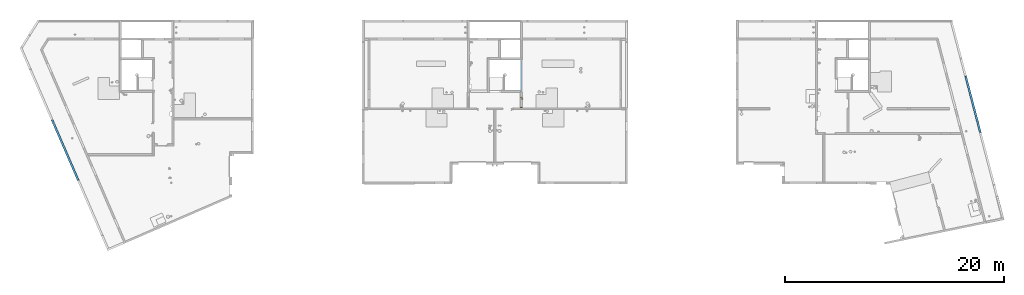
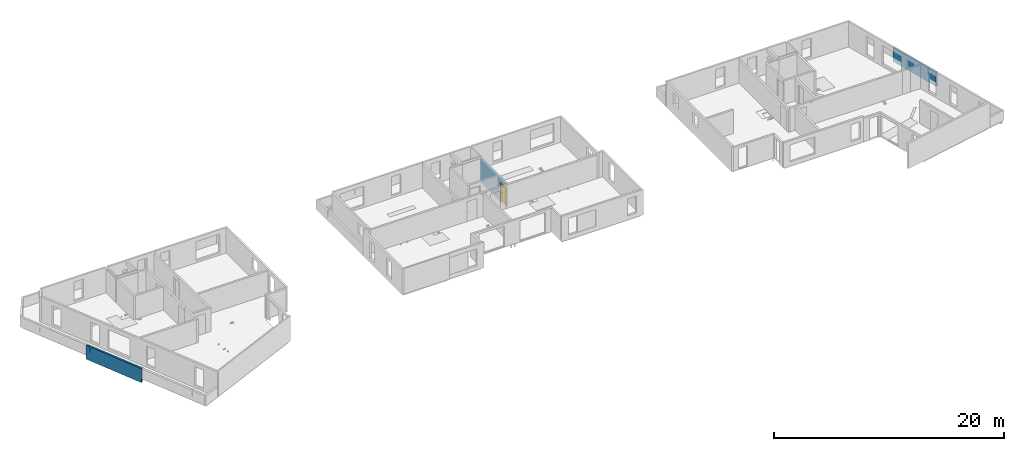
# One storey, part 18 of 28: 2 beams, 1 door, 2 openings, plus 1 element that does not belong to this part.
"""IFC2X3 building model written with IfcOpenShell, lengths in centimetres."""

from ifc_helpers import new_model, entity, si_unit, converted_unit, derived_unit, direction, frame, frame_2d, origin, place, context, subcontext, project, spatial, rectangle, extrude, faceted_brep, source, transform, mapped, material, material_list, layer, layer_set, layer_usage, type_object, type_shapes, element, fill, save


model = new_model("IFC2X3")

# Units and contexts
model_context = context("Model", 3, precision=0.001, world=origin(), true_north=direction((6.12303176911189e-17, 1.0)))
body_context = subcontext(model_context, "Body", "Model", "MODEL_VIEW")
ifc_project = project(units=[si_unit("LENGTHUNIT", "METRE", prefix="CENTI"), si_unit("AREAUNIT", "SQUARE_METRE"), si_unit("VOLUMEUNIT", "CUBIC_METRE"), converted_unit("PLANEANGLEUNIT", "DEGREE", entity("IfcRatioMeasure", 0.0174532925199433), si_unit("PLANEANGLEUNIT", "RADIAN"), dimensions=[0, 0, 0, 0, 0, 0, 0]), si_unit("MASSUNIT", "GRAM", prefix="KILO"), derived_unit("MASSDENSITYUNIT", [(si_unit("MASSUNIT", "GRAM", prefix="KILO"), 1), (si_unit("LENGTHUNIT", "METRE"), -3)]), si_unit("TIMEUNIT", "SECOND"), si_unit("FREQUENCYUNIT", "HERTZ"), si_unit("THERMODYNAMICTEMPERATUREUNIT", "DEGREE_CELSIUS"), derived_unit("THERMALTRANSMITTANCEUNIT", [(si_unit("MASSUNIT", "GRAM", prefix="KILO"), 1), (si_unit("THERMODYNAMICTEMPERATUREUNIT", "KELVIN"), -1), (si_unit("TIMEUNIT", "SECOND"), -3)]), derived_unit("VOLUMETRICFLOWRATEUNIT", [(si_unit("LENGTHUNIT", "METRE"), 3), (si_unit("TIMEUNIT", "SECOND"), -1)]), si_unit("ELECTRICCURRENTUNIT", "AMPERE"), si_unit("ELECTRICVOLTAGEUNIT", "VOLT"), si_unit("POWERUNIT", "WATT"), si_unit("FORCEUNIT", "NEWTON"), si_unit("ILLUMINANCEUNIT", "LUX"), si_unit("LUMINOUSFLUXUNIT", "LUMEN"), si_unit("LUMINOUSINTENSITYUNIT", "CANDELA"), derived_unit("USERDEFINED", [(si_unit("MASSUNIT", "GRAM", prefix="KILO"), -1), (si_unit("LENGTHUNIT", "METRE"), -2), (si_unit("TIMEUNIT", "SECOND"), 3), (si_unit("LUMINOUSFLUXUNIT", "LUMEN"), 1)]), derived_unit("LINEARVELOCITYUNIT", [(si_unit("LENGTHUNIT", "METRE"), 1), (si_unit("TIMEUNIT", "SECOND"), -1)]), si_unit("PRESSUREUNIT", "PASCAL"), derived_unit("USERDEFINED", [(si_unit("LENGTHUNIT", "METRE"), -2), (si_unit("MASSUNIT", "GRAM", prefix="KILO"), 1), (si_unit("TIMEUNIT", "SECOND"), -2)])], contexts=[model_context])

# Site, building, storey
site_placement = place(None, origin())
site = spatial("IfcSite", under=ifc_project, at=site_placement, Name="Default", CompositionType="ELEMENT")
building_placement = place(site_placement, origin())
building = spatial("IfcBuilding", under=site, at=building_placement, Name="CAGE 03", CompositionType="ELEMENT")
storey_placement = place(building_placement, frame((0.0, 0.0, 1420.0)))
storey = spatial("IfcBuildingStorey", under=building, at=storey_placement, Name="R+5", CompositionType="ELEMENT", Elevation=1420.0)

# Beams
ifc_material_1 = material(Name="Béton, C25/30")
beam_type = type_object("IfcBeamType", Name="BBGO-Poutre rect:18x149ht", PredefinedType="BEAM")
beam_1_placement = place(storey_placement, frame((3030.53791418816, 3828.7019610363, -44.0), z_axis=(0.0, 0.0, 1.0), x_axis=(0.397106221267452, -0.91777265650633, 0.0)))
element("IfcBeam", 1, at=beam_1_placement, inside=storey, type_object=beam_type, material=ifc_material_1, Name="BBGO-Poutre rect:18x149ht", ObjectType="BBGO-Poutre rect:18x149ht", context=body_context, shape_type="Brep", body=[
    faceted_brep([(-507.490379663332, 219.583341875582, 0.0), (95.0103607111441, 219.583341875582, 0.0), (95.0103607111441, 219.583341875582, 44.0), (95.0103607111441, 219.583341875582, 149.0), (-459.989639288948, 219.583341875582, 149.0), (-459.989639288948, 219.583341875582, 84.0), (-461.989639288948, 219.583341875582, 84.0), (-461.989639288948, 219.583341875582, 149.0), (-503.596217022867, 219.583341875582, 149.0), (-503.596217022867, 219.583341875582, 44.0), (-507.490379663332, 219.583341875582, 44.0), (95.0103607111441, 237.583341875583, 0.0), (-499.702054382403, 237.583341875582, 0.0), (-499.702054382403, 237.583341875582, 44.0), (-503.596217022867, 237.583341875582, 44.0), (-503.596217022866, 237.583341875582, 149.0), (-461.989639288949, 237.583341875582, 149.0), (-461.989639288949, 237.583341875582, 84.0), (-459.98963928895, 237.583341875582, 84.0), (-459.989639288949, 237.583341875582, 149.0), (95.0103607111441, 237.583341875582, 149.0), (95.0103607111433, 237.583341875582, 44.0), (-503.596217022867, 228.583341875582, 44.0)], [[[0, 1, 2, 3, 4, 5, 6, 7, 8, 9, 10]], [[11, 1, 0, 12]], [[12, 13, 14, 15, 16, 17, 18, 19, 20, 21, 11]], [[3, 20, 19, 4]], [[1, 11, 21, 20, 3, 2]], [[14, 13, 22]], [[0, 10, 22, 13, 12]], [[9, 22, 10]], [[22, 9, 8, 15, 14]], [[18, 5, 4, 19]], [[5, 18, 17, 6]], [[6, 17, 16, 7]], [[15, 8, 7, 16]]]),
])
beam_2_placement = place(storey_placement, frame((11368.8973038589, 4264.38654886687, -44.0), z_axis=(0.0, 0.0, 1.0), x_axis=(0.252679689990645, -0.967549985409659, 0.0)))
element("IfcBeam", 2, at=beam_2_placement, inside=storey, type_object=beam_type, material=ifc_material_1, Name="BBGO-Poutre rect:18x149ht", ObjectType="BBGO-Poutre rect:18x149ht", context=body_context, shape_type="Brep", body=[
    faceted_brep([(31.7914663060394, 130.734488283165, 0.0), (31.7914663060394, 130.734488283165, 44.0), (34.1418536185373, 130.734488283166, 44.0), (34.1418536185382, 130.734488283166, 149.0), (-61.1027680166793, 130.734488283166, 149.0), (-61.1027680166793, 130.734488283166, 84.0), (-63.1027680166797, 130.734488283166, 84.0), (-63.1027680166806, 130.734488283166, 149.0), (-500.602768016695, 130.734488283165, 149.0), (-500.602768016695, 130.734488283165, 44.0), (-500.602768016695, 130.734488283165, 0.0), (36.492240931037, 148.734488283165, 0.0), (-500.602768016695, 148.734488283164, 0.0), (36.4922409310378, 148.734488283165, 44.0), (-500.602768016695, 148.734488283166, 44.0), (-500.602768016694, 148.734488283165, 149.0), (-63.1027680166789, 148.734488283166, 149.0), (-63.1027680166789, 148.734488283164, 84.0), (-61.1027680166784, 148.734488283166, 84.0), (-61.1027680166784, 148.734488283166, 149.0), (34.1418536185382, 148.734488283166, 149.0), (34.1418536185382, 148.734488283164, 44.0), (34.1418536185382, 139.734488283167, 44.0)], [[[0, 1, 2, 3, 4, 5, 6, 7, 8, 9, 10]], [[11, 0, 10, 12]], [[13, 11, 12, 14, 15, 16, 17, 18, 19, 20, 21]], [[3, 20, 19, 4]], [[2, 1, 22]], [[1, 0, 11, 13, 22]], [[12, 10, 9, 8, 15, 14]], [[21, 22, 13]], [[22, 21, 20, 3, 2]], [[18, 5, 4, 19]], [[5, 18, 17, 6]], [[6, 17, 16, 7]], [[15, 8, 7, 16]]]),
])

# Wall, openings, door
ifc_material_2 = material(Name="Béton, panneaux préfa 30/37")
ifc_layer_1 = layer(ifc_material_2, 5.5)
ifc_layer_2 = layer(ifc_material_1, 7.0)
ifc_layer_3 = layer(ifc_material_2, 5.5)
ifc_layer_set = layer_set([ifc_layer_1, ifc_layer_2, ifc_layer_3], Name="Mur de base:premur 18")
ifc_layer_usage = layer_usage(ifc_layer_set, "AXIS2", "NEGATIVE", 9.0)
wall_type = type_object("IfcWallType", Name="Mur de base:premur 18", PredefinedType="NOTDEFINED")
wall_placement = place(storey_placement, frame((7322.36582014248, 4932.6606660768, 0.0), z_axis=(0.0, 0.0, 1.0), x_axis=(0.0, -1.0, 0.0)))
wall = element("IfcWallStandardCase", 3, at=wall_placement, inside=storey, type_object=wall_type, material=ifc_layer_usage, Name="Mur de base:premur 18", ObjectType="Mur de base:premur 18", context=body_context, shape_type="SweptSolid", body=[
    extrude(rectangle(XDim=440.0, YDim=17.9999999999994, at=frame_2d((220.0, 0.0), x_axis=(-1.0, 0.0))), origin(), (0.0, 0.0, 1.0), 250.0),
])
opening_1_placement = place(wall_placement, origin())
element("IfcOpeningElement", 4, at=opening_1_placement, cuts=wall, Name="Mur de base:premur 18", ObjectType="Opening", context=body_context, shape_type="SweptSolid", body=[
    extrude(rectangle(XDim=10.0000000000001, YDim=19.9999999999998, at=frame_2d((4.33431068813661e-13, -1.08357767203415e-13), x_axis=(0.0, 1.0))), frame((310.0, -9.0, 242.500000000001), z_axis=(0.0, 1.0, 0.0), x_axis=(1.0, 0.0, 0.0)), (0.0, 0.0, 1.0), 17.9999999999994),
])
opening_2_placement = place(wall_placement, frame((343.0, -9.0, 0.0)))
opening_2 = element("IfcOpeningElement", 5, at=opening_2_placement, cuts=wall, Name="Int. Simple:HB93:1", ObjectType="Opening", context=body_context, shape_type="SweptSolid", body=[
    extrude(rectangle(XDim=210.000000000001, YDim=96.9999999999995, at=frame_2d((105.000000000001, 48.4999999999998), x_axis=(1.0, 0.0))), frame((0.0, 0.0, 0.0), z_axis=(0.0, 1.0, 0.0), x_axis=(0.0, 0.0, 1.0)), (0.0, 0.0, 1.0), 18.0),
])
ifc_material_3 = material(Name="Finition Peinture - Blanc satiné")
ifc_material_4 = material(Name="Bois - Panneau de porte")
ifc_material_5 = material(Name="Bois - Cadre de porte")
ifc_material_list_1 = material_list([ifc_material_3, ifc_material_4, ifc_material_5])
ifc_material_list_2 = material_list([ifc_material_3, ifc_material_4, ifc_material_5])
door_style = type_object("IfcDoorStyle", Name="HB93", ConstructionType="NOTDEFINED", OperationType="SINGLE_SWING_RIGHT", ParameterTakesPrecedence=False, Sizeable=False, material=ifc_material_list_2)
shared_shape = source(origin(), body_context, "Body", "Brep", [
    faceted_brep([(96.5000000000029, -0.500000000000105, 87.0), (96.5000000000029, -0.500000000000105, 108.0), (95.535276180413, -0.500000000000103, 108.399601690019), (94.5000000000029, -0.500000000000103, 108.535898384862), (93.4647238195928, -0.500000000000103, 108.399601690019), (92.5000000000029, -0.500000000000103, 108.0), (92.5000000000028, -0.500000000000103, 87.0), (93.4647238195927, -0.500000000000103, 86.6003983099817), (94.5000000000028, -0.500000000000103, 86.464101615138), (95.5352761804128, -0.500000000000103, 86.6003983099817), (96.5000000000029, 0.0, 108.0), (96.5000000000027, 0.0, 87.0), (95.5352761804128, 0.0, 86.6003983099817), (94.5000000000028, 0.0, 86.464101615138), (93.4647238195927, 0.0, 86.6003983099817), (92.5000000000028, 0.0, 87.0), (92.5000000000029, 0.0, 108.0), (93.4647238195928, 0.0, 108.399601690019), (94.5000000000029, 0.0, 108.535898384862), (95.535276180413, 0.0, 108.399601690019)], [[[0, 1, 2, 3, 4, 5, 6, 7, 8, 9]], [[10, 11, 12, 13, 14, 15, 16, 17, 18, 19]], [[9, 12, 11, 0]], [[8, 13, 12, 9]], [[7, 14, 13, 8]], [[7, 6, 15, 14]], [[15, 6, 5, 16]], [[4, 17, 16, 5]], [[3, 18, 17, 4]], [[2, 19, 18, 3]], [[2, 1, 10, 19]], [[11, 10, 1, 0]]]),
    faceted_brep([(96.5000000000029, 4.0, 87.0), (96.5000000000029, 4.0, 108.0), (95.535276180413, 4.0, 108.399601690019), (94.5000000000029, 4.0, 108.535898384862), (93.4647238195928, 4.0, 108.399601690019), (92.500000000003, 4.0, 108.0), (92.5000000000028, 4.0, 87.0), (93.4647238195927, 4.0, 86.6003983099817), (94.5000000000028, 4.0, 86.464101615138), (95.5352761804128, 4.0, 86.6003983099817), (94.5000000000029, 4.49999999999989, 108.535898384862), (95.535276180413, 4.49999999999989, 108.399601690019), (96.5000000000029, 4.49999999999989, 108.0), (96.5000000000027, 4.49999999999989, 87.0), (95.5352761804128, 4.49999999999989, 86.6003983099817), (94.5000000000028, 4.49999999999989, 86.464101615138), (93.4647238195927, 4.49999999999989, 86.6003983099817), (92.5000000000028, 4.4999999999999, 87.0), (92.5000000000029, 4.4999999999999, 108.0), (93.4647238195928, 4.49999999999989, 108.399601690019)], [[[0, 1, 2, 3, 4, 5, 6, 7, 8, 9]], [[10, 11, 12, 13, 14, 15, 16, 17, 18, 19]], [[4, 19, 18, 5]], [[3, 10, 19, 4]], [[2, 11, 10, 3]], [[2, 1, 12, 11]], [[13, 12, 1, 0]], [[9, 14, 13, 0]], [[8, 15, 14, 9]], [[7, 16, 15, 8]], [[7, 6, 17, 16]], [[17, 6, 5, 18]]]),
    faceted_brep([(94.2974701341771, -0.500000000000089, 100.778044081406), (94.7025298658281, -0.500000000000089, 100.778044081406), (95.100000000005, -0.500000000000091, 100.699999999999), (95.100000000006, -0.500000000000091, 99.2999999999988), (94.7025298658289, -0.500000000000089, 99.221955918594), (94.297470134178, -0.500000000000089, 99.2219559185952), (93.9000000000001, -0.500000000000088, 99.3000000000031), (93.9000000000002, -0.500000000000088, 100.7), (94.7025298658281, -3.10045754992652, 100.778044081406), (95.1000000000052, -3.26509507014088, 100.7), (94.2974701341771, -2.93267631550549, 100.778044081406), (92.9298602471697, -4.30028620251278, 100.778044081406), (93.0976414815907, -4.70534593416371, 100.778044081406), (93.9000000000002, -2.76803879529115, 100.7), (93.9000000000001, -2.76803879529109, 99.3000000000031), (94.297470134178, -2.93267631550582, 99.2219559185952), (94.7025298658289, -3.10045754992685, 99.221955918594), (93.0976414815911, -4.70534593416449, 99.221955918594), (92.9298602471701, -4.30028620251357, 99.2219559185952), (95.100000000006, -3.26509507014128, 99.2999999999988), (93.2622790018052, -5.1028160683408, 100.7), (92.7652227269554, -3.90281606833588, 100.7), (92.7652227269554, -3.90281606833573, 99.3000000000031), (93.2622790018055, -5.10281606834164, 99.2999999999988), (84.4981359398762, -5.10281606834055, 100.7), (84.4981359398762, -4.70534593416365, 100.778044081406), (84.4981359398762, -4.30028620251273, 100.778044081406), (84.4981359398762, -3.90281606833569, 100.699999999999), (84.4981359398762, -3.90281606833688, 99.3000000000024), (84.4981359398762, -4.30028620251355, 99.2219559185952), (84.4981359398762, -4.70534593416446, 99.221955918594), (84.4981359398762, -5.10281606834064, 99.2999999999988), (88.7139980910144, -4.5028160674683, 100.78786867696), (89.2692302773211, -5.1028160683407, 100.7), (88.6316793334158, -3.90281606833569, 100.7), (88.631679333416, -3.90281606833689, 99.3000000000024), (88.7139981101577, -4.50281607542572, 99.2121313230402), (89.2692310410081, -5.10281606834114, 99.2999999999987)], [[[0, 1, 2, 3, 4, 5, 6, 7]], [[2, 1, 8, 9]], [[1, 0, 10, 11, 12, 8]], [[0, 7, 13, 10]], [[14, 13, 7, 6]], [[5, 15, 14, 6]], [[5, 4, 16, 17, 18, 15]], [[3, 19, 16, 4]], [[9, 19, 3, 2]], [[9, 8, 12, 20]], [[10, 13, 21, 11]], [[22, 21, 13, 14]], [[14, 15, 18, 22]], [[16, 19, 23, 17]], [[20, 23, 19, 9]], [[24, 25, 26, 27, 28, 29, 30, 31]], [[32, 25, 33]], [[33, 25, 24]], [[33, 20, 12]], [[11, 34, 32]], [[34, 11, 21]], [[27, 26, 34]], [[32, 26, 25]], [[32, 34, 26]], [[32, 33, 12]], [[11, 32, 12]], [[21, 22, 35, 28, 27, 34]], [[36, 29, 35]], [[30, 36, 37]], [[18, 35, 22]], [[29, 28, 35]], [[30, 37, 31]], [[37, 17, 23]], [[36, 17, 37]], [[36, 18, 17]], [[36, 35, 18]], [[29, 36, 30]], [[23, 20, 33, 24, 31, 37]]]),
    faceted_brep([(94.2974701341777, 4.49999999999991, 99.2219559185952), (94.7025298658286, 4.49999999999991, 99.221955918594), (95.1000000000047, 4.49999999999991, 99.2999999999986), (95.1000000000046, 4.49999999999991, 100.7), (94.7025298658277, 4.49999999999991, 100.778044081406), (94.2974701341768, 4.49999999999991, 100.778044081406), (93.8999999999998, 4.49999999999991, 100.7), (93.900000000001, 4.49999999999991, 99.3000000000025), (93.8999999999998, 6.7485204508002, 100.7), (93.8999999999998, 6.74852045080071, 99.3000000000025), (94.2974701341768, 6.91315797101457, 100.778044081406), (94.7025298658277, 7.0809392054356, 100.778044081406), (93.0838906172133, 8.69957845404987, 100.778044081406), (92.9161093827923, 8.29451872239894, 100.778044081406), (95.1000000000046, 7.24557672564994, 100.7), (95.1000000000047, 7.24557672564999, 99.2999999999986), (94.7025298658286, 7.08093920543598, 99.221955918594), (94.2974701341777, 6.91315797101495, 99.2219559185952), (92.9161093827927, 8.29451872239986, 99.2219559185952), (93.0838906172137, 8.69957845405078, 99.221955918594), (92.751471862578, 7.89704858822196, 100.7), (92.7514718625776, 7.89704858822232, 99.3000000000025), (93.2485281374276, 9.09704858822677, 100.7), (93.2485281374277, 9.09704858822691, 99.2999999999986), (84.4954216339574, 8.29451872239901, 100.778044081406), (84.4954216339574, 8.69957845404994, 100.778044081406), (84.4954216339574, 9.09704858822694, 100.7), (84.4954216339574, 9.09704858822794, 99.2999999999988), (84.4954216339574, 8.6995784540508, 99.221955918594), (84.4954216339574, 8.29451872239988, 99.2219559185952), (84.4954216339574, 7.89704858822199, 99.3000000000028), (84.4954216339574, 7.89704858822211, 100.7), (88.6234467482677, 7.89704858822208, 100.7), (88.6234479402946, 7.89704858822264, 99.3000000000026), (88.7057655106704, 8.49704858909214, 100.78786867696), (89.255479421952, 9.09704858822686, 100.7), (89.2554795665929, 9.09704858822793, 99.2999999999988), (88.7057654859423, 8.49704858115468, 99.2121313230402)], [[[0, 1, 2, 3, 4, 5, 6, 7]], [[8, 9, 7, 6]], [[5, 10, 8, 6]], [[5, 4, 11, 12, 13, 10]], [[3, 14, 11, 4]], [[14, 3, 2, 15]], [[2, 1, 16, 15]], [[1, 0, 17, 18, 19, 16]], [[0, 7, 9, 17]], [[20, 21, 9, 8]], [[8, 10, 13, 20]], [[14, 22, 12, 11]], [[23, 22, 14, 15]], [[15, 16, 19, 23]], [[17, 9, 21, 18]], [[24, 25, 26, 27, 28, 29, 30, 31]], [[21, 20, 32, 31, 30, 33]], [[34, 24, 32]], [[25, 34, 35]], [[13, 32, 20]], [[24, 31, 32]], [[25, 35, 26]], [[35, 12, 22]], [[34, 12, 35]], [[34, 13, 12]], [[34, 32, 13]], [[24, 34, 25]], [[22, 23, 36, 27, 26, 35]], [[37, 28, 36]], [[36, 28, 27]], [[36, 23, 19]], [[18, 33, 37]], [[33, 18, 21]], [[30, 29, 33]], [[37, 29, 28]], [[37, 33, 29]], [[37, 36, 19]], [[18, 37, 19]]]),
    faceted_brep([(100.500000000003, 4.0, 206.5), (100.500000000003, 4.0, 0.0), (10.5000000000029, 4.0, 0.0), (10.5000000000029, 4.0, 206.5), (100.500000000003, 0.0, 206.5), (10.5000000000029, 0.0, 206.5), (10.5000000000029, 0.0, 0.0), (100.500000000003, 0.0, 0.0)], [[[0, 1, 2, 3]], [[4, 5, 6, 7]], [[3, 5, 4, 0]], [[2, 6, 5, 3]], [[1, 7, 6, 2]], [[0, 4, 7, 1]]]),
    faceted_brep([(104.0, 0.0, 0.0), (100.500000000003, 0.0, 0.0), (100.500000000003, 4.0, 0.0), (99.0, 4.0, 0.0), (99.0, 18.0, 0.0), (104.0, 18.0, 0.0), (104.0, 18.0, 210.0), (104.0, 0.0, 210.0), (99.0, 18.0, 205.0), (12.0, 18.0, 205.0), (12.0, 18.0, 0.0), (7.0, 18.0, 0.0), (7.0, 18.0, 210.0), (99.0, 4.0, 205.0), (100.500000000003, 4.0, 206.5), (10.5000000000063, 4.0, 206.5), (10.5000000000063, 4.0, 0.0), (12.0, 4.0, 0.0), (12.0, 4.0, 205.0), (100.500000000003, 0.0, 206.5), (7.0, 0.0, 210.0), (7.0, 0.0, 0.0), (10.5000000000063, 0.0, 0.0), (10.5000000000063, 0.0, 206.5)], [[[0, 1, 2, 3, 4, 5]], [[5, 6, 7, 0]], [[4, 8, 9, 10, 11, 12, 6, 5]], [[3, 13, 8, 4]], [[2, 14, 15, 16, 17, 18, 13, 3]], [[1, 19, 14, 2]], [[0, 7, 20, 21, 22, 23, 19, 1]], [[12, 11, 21, 20]], [[21, 11, 10, 17, 16, 22]], [[18, 17, 10, 9]], [[23, 22, 16, 15]], [[6, 12, 20, 7]], [[13, 18, 9, 8]], [[19, 23, 15, 14]]]),
    faceted_brep([(102.500000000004, 18.0, 0.0), (102.500000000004, 18.5000000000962, 0.0), (105.500000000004, 18.5000000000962, 0.0), (105.500000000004, 18.0, 0.0), (105.500000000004, 18.0, 211.500000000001), (5.50000000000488, 18.0, 211.500000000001), (5.50000000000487, 18.0, 0.0), (8.50000000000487, 18.0, 0.0), (8.50000000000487, 18.0, 208.500000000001), (102.500000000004, 18.0, 208.500000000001), (105.500000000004, 18.5000000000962, 211.500000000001), (102.500000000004, 18.5000000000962, 208.500000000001), (8.50000000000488, 18.5000000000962, 208.500000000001), (8.50000000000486, 18.5000000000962, 0.0), (5.50000000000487, 18.5000000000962, 0.0), (5.50000000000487, 18.5000000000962, 211.500000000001)], [[[0, 1, 2, 3]], [[3, 4, 5, 6, 7, 8, 9, 0]], [[2, 10, 4, 3]], [[1, 11, 12, 13, 14, 15, 10, 2]], [[0, 9, 11, 1]], [[7, 6, 14, 13]], [[8, 7, 13, 12]], [[15, 14, 6, 5]], [[10, 15, 5, 4]], [[9, 8, 12, 11]]]),
    faceted_brep([(105.500000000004, -0.5, 0.0), (105.500000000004, -0.5, 211.500000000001), (5.50000000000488, -0.5, 211.500000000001), (5.50000000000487, -0.5, 0.0), (8.50000000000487, -0.5, 0.0), (8.50000000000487, -0.5, 208.500000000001), (102.500000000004, -0.5, 208.500000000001), (102.500000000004, -0.5, 0.0), (105.500000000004, 0.0, 0.0), (105.500000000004, 0.0, 211.500000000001), (102.500000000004, 0.0, 0.0), (102.500000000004, 0.0, 208.500000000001), (8.50000000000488, 0.0, 208.500000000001), (8.50000000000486, 0.0, 0.0), (5.50000000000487, 0.0, 0.0), (5.50000000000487, 0.0, 211.500000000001)], [[[0, 1, 2, 3, 4, 5, 6, 7]], [[8, 9, 1, 0]], [[10, 11, 12, 13, 14, 15, 9, 8]], [[7, 6, 11, 10]], [[5, 4, 13, 12]], [[15, 14, 3, 2]], [[9, 15, 2, 1]], [[6, 5, 12, 11]], [[4, 3, 14, 13]], [[7, 10, 8, 0]]]),
])
type_shapes(door_style, [shared_shape])
door_placement = place(opening_2_placement, frame((104.0, 18.0, 0.0), z_axis=(0.0, 0.0, 1.0), x_axis=(-1.0, 0.0, 0.0)))
door = element("IfcDoor", 6, at=door_placement, inside=storey, type_object=door_style, material=ifc_material_list_1, Name="Int. Simple:HB93", ObjectType="HB93", OverallHeight=210.000000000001, OverallWidth=96.9999999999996, context=body_context, shape_type="MappedRepresentation", body=[
    mapped(shared_shape, transform((0.0, 0.0, 0.0), scale=1.0)),
])
fill(opening_2, door)

save(model, "model.ifc")
